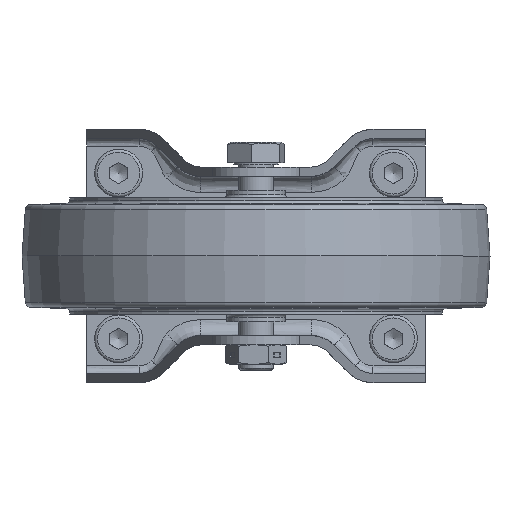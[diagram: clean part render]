
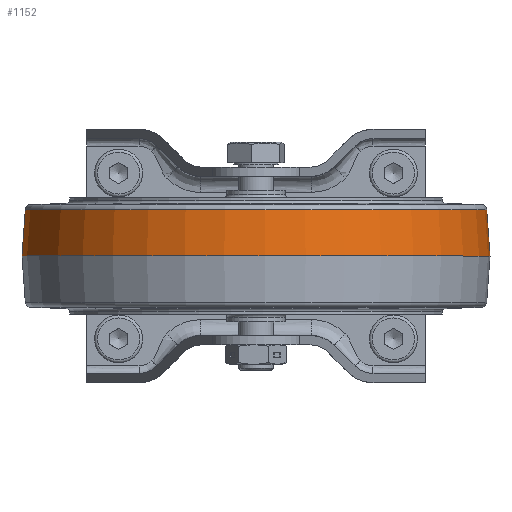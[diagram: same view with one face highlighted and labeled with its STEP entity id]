
A CAD part, front view. The second image highlights one B-rep face of the part: STEP entity #1152.
In plain terms, the highlighted conical face has half-angle 4.08 degrees and reference radius 63.551 mm.
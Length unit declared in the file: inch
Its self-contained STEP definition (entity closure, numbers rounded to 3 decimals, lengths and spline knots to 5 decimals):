
#1121=CARTESIAN_POINT('',(-2.46683,0.0,0.49312));
#1122=VERTEX_POINT('',#1121);
#1123=CARTESIAN_POINT('',(0.0,0.0,0.49312));
#1124=DIRECTION('',(0.0,0.0,-1.0));
#1125=DIRECTION('',(-1.0,0.0,0.0));
#1126=AXIS2_PLACEMENT_3D('',#1123,#1124,#1125);
#1127=CIRCLE('',#1126,2.46683);
#1128=EDGE_CURVE('',#1122,#1122,#1127,.T.);
#1133=CARTESIAN_POINT('',(0.0,0.0,0.0));
#1134=DIRECTION('',(0.0,0.0,-1.0));
#1135=DIRECTION('',(-1.0,0.0,0.0));
#1136=AXIS2_PLACEMENT_3D('',#1133,#1134,#1135);
#1137=CONICAL_SURFACE('',#1136,2.502,4.08);
#1138=ORIENTED_EDGE('',*,*,#1128,.T.);
#1139=EDGE_LOOP('',(#1138));
#1140=FACE_OUTER_BOUND('',#1139,.T.);
#1141=CARTESIAN_POINT('',(-2.502,0.,0.0));
#1142=VERTEX_POINT('',#1141);
#1143=CARTESIAN_POINT('',(0.0,0.0,0.0));
#1144=DIRECTION('',(0.0,0.0,-1.0));
#1145=DIRECTION('',(-1.0,0.0,0.0));
#1146=AXIS2_PLACEMENT_3D('',#1143,#1144,#1145);
#1147=CIRCLE('',#1146,2.502);
#1148=EDGE_CURVE('',#1142,#1142,#1147,.T.);
#1149=ORIENTED_EDGE('',*,*,#1148,.F.);
#1150=EDGE_LOOP('',(#1149));
#1151=FACE_BOUND('',#1150,.T.);
#1152=ADVANCED_FACE('',(#1140,#1151),#1137,.T.);
